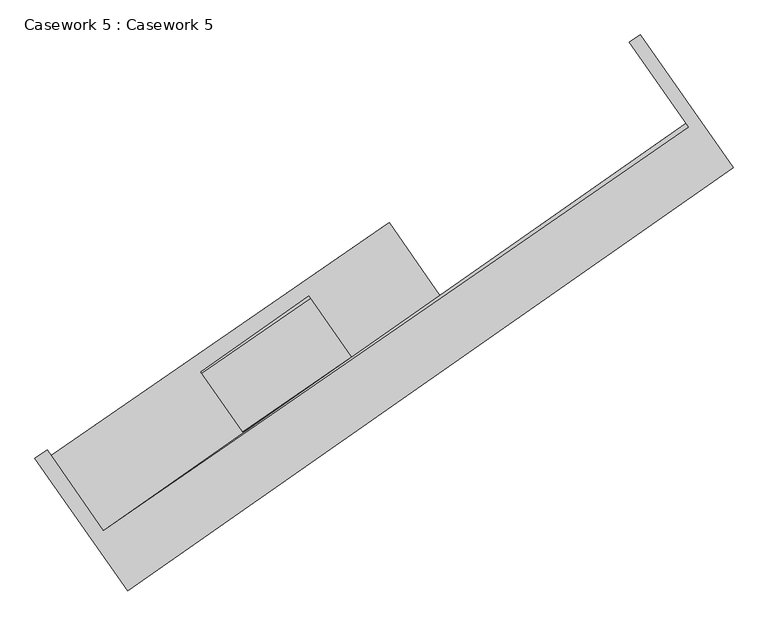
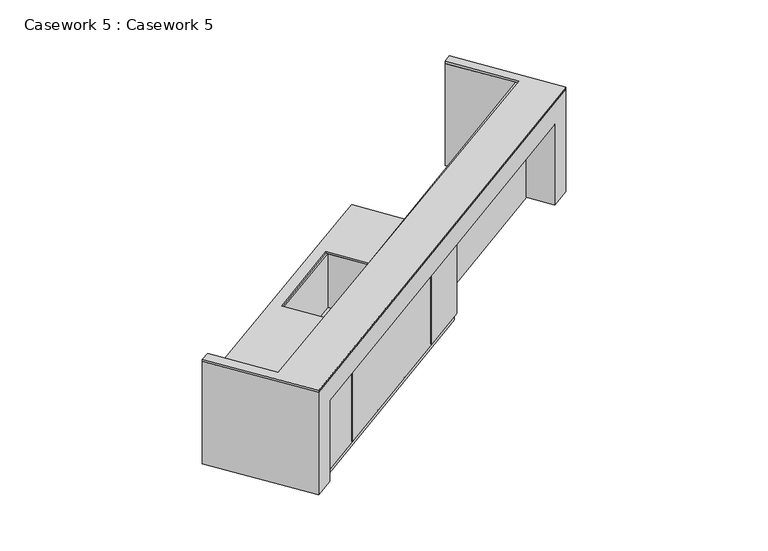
"""IFC4 building model written with IfcOpenShell, lengths in millimetres: furniture geometry, Casework 5 : Casework 5."""

from ifc_helpers import new_model, si_unit, frame, origin, place, context, project, spatial, polyline, outline, extrude, faceted_brep, source, transform, mapped, element, save


def casework_5_casework_5_8ba0d865(model_context):
    return source(origin(), model_context, "Body", "SolidModel", [
        extrude(outline(polyline([(-2876.796837, 10510.4478811), (-3272.1596761, 11083.2004407), (-974.8864774, 12668.9750286), (-707.9586485, 12853.2314627), (-324.4353853, 12297.6306098), (-2876.796837, 10510.4478811)]), holes=[polyline([(-2137.8250822, 11719.1775474), (-1819.5116374, 11264.5788356), (-996.6696996, 11832.5747689), (-1315.7416481, 12294.806565), (-2137.8250822, 11719.1775474)])]), frame((0.0, 0.0, 1146.6), z_axis=(0.0, 0.0, 1.0), x_axis=(1.0, 0.0, 0.0)), (0.0, 0.0, 1.0), 16.0433183),
        faceted_brep([(-707.9586485, 12853.2314627, 219.4721902), (-707.9586485, 12853.2314627, 1144.4721902), (-312.5958093, 12280.4789031, 1144.4721902), (-312.5958093, 12280.4789031, 219.4721902), (-3272.1596761, 11083.2004407, 219.4721902), (-2876.796837, 10510.4478811, 219.4721902), (-2876.796837, 10510.4478811, 1144.4721902), (-3272.1596761, 11083.2004407, 1144.4721902), (-1303.5583905, 12277.156975, 1144.4721902), (-996.6696996, 11832.5747689, 1144.4721902), (-1822.5665118, 11262.4700998, 1144.4721902), (-2129.4552027, 11707.0523058, 1144.4721902), (-1303.5583905, 12277.156975, 514.700686), (-2129.4552027, 11707.0523058, 514.700686), (-1822.5665118, 11262.4700998, 514.700686), (-996.6696996, 11832.5747689, 514.700686)], [[[0, 1, 2, 3]], [[4, 5, 6, 7]], [[1, 0, 4, 7]], [[2, 1, 7, 6], [8, 9, 10, 11]], [[3, 2, 6, 5]], [[0, 3, 5, 4]], [[12, 13, 14, 15]], [[12, 15, 9, 8]], [[15, 14, 10, 9]], [[14, 13, 11, 10]], [[13, 12, 8, 11]]]),
        faceted_brep([(-72.0617533, 11937.2037103, 219.4721902), (-324.4353853, 12297.6306098, 219.4721902), (-324.4353853, 12297.6306098, 1100.0), (-72.0617533, 11937.2037103, 1100.0), (-2509.0390851, 10230.8138121, 219.4721902), (-2509.0390851, 10230.8138121, 1100.0), (-2761.4127171, 10591.2407116, 1100.0), (-2761.4127171, 10591.2407116, 219.4721902), (-2031.4734433, 10565.2088745, 1100.0), (-2045.8128542, 10585.6876756, 1100.0), (-2033.5255735, 10594.2913222, 1100.0), (-2019.1861626, 10573.8125211, 1100.0), (-1541.6205208, 10908.2075835, 1100.0), (-1555.9599317, 10928.6863846, 1100.0), (-1543.672651, 10937.2900311, 1100.0), (-1529.3332401, 10916.81123, 1100.0), (-1051.7675983, 11251.2062924, 1100.0), (-1066.1070092, 11271.6850935, 1100.0), (-1053.8197285, 11280.2887401, 1100.0), (-1039.4803176, 11259.809939, 1100.0), (-561.9146758, 11594.2050014, 1100.0), (-576.2540867, 11614.6838025, 1100.0), (-563.966806, 11623.287449, 1100.0), (-549.6273951, 11602.8086479, 1100.0), (-549.6273951, 11602.8086479, 229.4721902), (-561.9146758, 11594.2050014, 229.4721902), (-1039.4803176, 11259.809939, 229.4721902), (-1051.7675983, 11251.2062924, 229.4721902), (-1529.3332401, 10916.81123, 229.4721902), (-1541.6205208, 10908.2075835, 229.4721902), (-2019.1861626, 10573.8125211, 229.4721902), (-2031.4734433, 10565.2088745, 229.4721902), (-2045.8128542, 10585.6876756, 229.4721902), (-2033.5255735, 10594.2913222, 229.4721902), (-1555.9599317, 10928.6863846, 229.4721902), (-1543.672651, 10937.2900311, 229.4721902), (-1066.1070092, 11271.6850935, 229.4721902), (-1053.8197285, 11280.2887401, 229.4721902), (-576.2540867, 11614.6838025, 229.4721902), (-563.966806, 11623.287449, 229.4721902)], [[[0, 1, 2, 3]], [[4, 5, 6, 7]], [[1, 0, 4, 7]], [[2, 1, 7, 6]], [[3, 2, 6, 5, 8, 9, 10, 11, 12, 13, 14, 15, 16, 17, 18, 19, 20, 21, 22, 23]], [[0, 3, 23, 24, 25, 20, 19, 26, 27, 16, 15, 28, 29, 12, 11, 30, 31, 8, 5, 4]], [[9, 32, 33, 10]], [[34, 35, 14, 13]], [[36, 37, 18, 17]], [[38, 39, 22, 21]], [[10, 33, 30, 11]], [[33, 32, 31, 30]], [[32, 9, 8, 31]], [[34, 13, 12, 29]], [[14, 35, 28, 15]], [[35, 34, 29, 28]], [[36, 17, 16, 27]], [[18, 37, 26, 19]], [[37, 36, 27, 26]], [[38, 21, 20, 25]], [[22, 39, 24, 23]], [[39, 38, 25, 24]]]),
        extrude(outline(polyline([(-705.5075034, 12812.0967769), (-98.0821494, 11944.6034683), (-2626.5682348, 10174.138451), (-3233.9935888, 11041.6317596), (-705.5075034, 12812.0967769)])), frame((0.0, 0.0, 150.0), z_axis=(0.0, 0.0, 1.0), x_axis=(1.0, 0.0, 0.0)), (0.0, 0.0, 1.0), 69.4721902),
        extrude(outline(polyline([(1423.7513955, 13521.7241719), (1526.9951541, 13374.2768039), (-221.1916268, 12150.1832418), (-324.4353853, 12297.6306098), (1423.7513955, 13521.7241719)])), frame((0.0, 0.0, 150.0), z_axis=(0.0, 0.0, 1.0), x_axis=(1.0, 0.0, 0.0)), (0.0, 0.0, 1.0), 950.0),
        faceted_brep([(-2876.796837, 10510.4478811, 1350.0), (-3302.8697393, 11127.6893646, 1350.0), (-3396.3830554, 11062.2106358, 1350.0), (-2690.8840387, 10054.6536213, 1350.0), (1903.856096, 13271.9252997, 1350.0), (1198.3570793, 14279.4823142, 1350.0), (1116.4418749, 14222.1246706, 1350.0), (1546.6242022, 13607.7606374, 1350.0), (1546.6242022, 13607.7606374, 150.0), (1116.4418749, 14222.1246706, 150.0), (1198.3570793, 14279.4823142, 150.0), (1903.856096, 13271.9252997, 150.0), (1699.068085, 13128.5311907, 150.0), (1423.7513955, 13521.7241719, 150.0), (-2690.8840387, 10054.6536213, 150.0), (-3396.3830554, 11062.2106358, 150.0), (-3302.8697393, 11127.6893646, 150.0), (-2876.796837, 10510.4478811, 150.0), (-2761.4127171, 10591.2407116, 150.0), (-2486.0960276, 10198.0477304, 150.0), (-2486.0960276, 10198.0477304, 1100.0), (1699.068085, 13128.5311907, 1100.0), (1423.7513955, 13521.7241719, 1100.0), (-2761.4127171, 10591.2407116, 1100.0)], [[[0, 1, 2, 3, 4, 5, 6, 7]], [[8, 9, 10, 11, 12, 13]], [[14, 15, 16, 17, 18, 19]], [[1, 0, 17, 16]], [[2, 1, 16, 15]], [[3, 2, 15, 14]], [[4, 3, 14, 19, 20, 21, 12, 11]], [[5, 4, 11, 10]], [[6, 5, 10, 9]], [[7, 6, 9, 8]], [[0, 7, 8, 13, 22, 23, 18, 17]], [[22, 21, 20, 23]], [[21, 22, 13, 12]], [[23, 20, 19, 18]]]),
        extrude(outline(polyline([(-2690.8840387, 10054.6536213), (-3396.3830554, 11062.2106358), (-3302.8697393, 11127.6893646), (-2876.796837, 10510.4478811), (-312.5384469, 12280.5184996), (1567.3418445, 13578.1727777), (1116.4418749, 14222.1246706), (1198.3570793, 14279.4823142), (1903.856096, 13271.9252997), (-2690.8840387, 10054.6536213)])), frame((0.0, 0.0, 1350.0), z_axis=(0.0, 0.0, 1.0), x_axis=(1.0, 0.0, 0.0)), (0.0, 0.0, 1.0), 25.0),
    ])


if __name__ == "__main__":
    model = new_model("IFC4")
    model_context = context("Model", 3, world=origin())
    ifc_project = project(units=[si_unit("LENGTHUNIT", "METRE", prefix="MILLI")], contexts=[model_context])
    site = spatial("IfcSite", under=ifc_project)
    building = spatial("IfcBuilding", under=site)
    placement = place(None, origin())
    casework_5_casework_5_shape = casework_5_casework_5_8ba0d865(model_context)
    element("IfcFurniture", 1, ObjectType="Casework 5 : Casework 5", at=placement, inside=building, context=model_context, shape_type="MappedRepresentation", body=[
        mapped(casework_5_casework_5_shape, transform((0.0, 0.0, 0.0), x_axis=(1.0, 0.0, 0.0), y_axis=(0.0, 1.0, 0.0), z_axis=(0.0, 0.0, 1.0))),
    ])
    save(model, "model.ifc")
